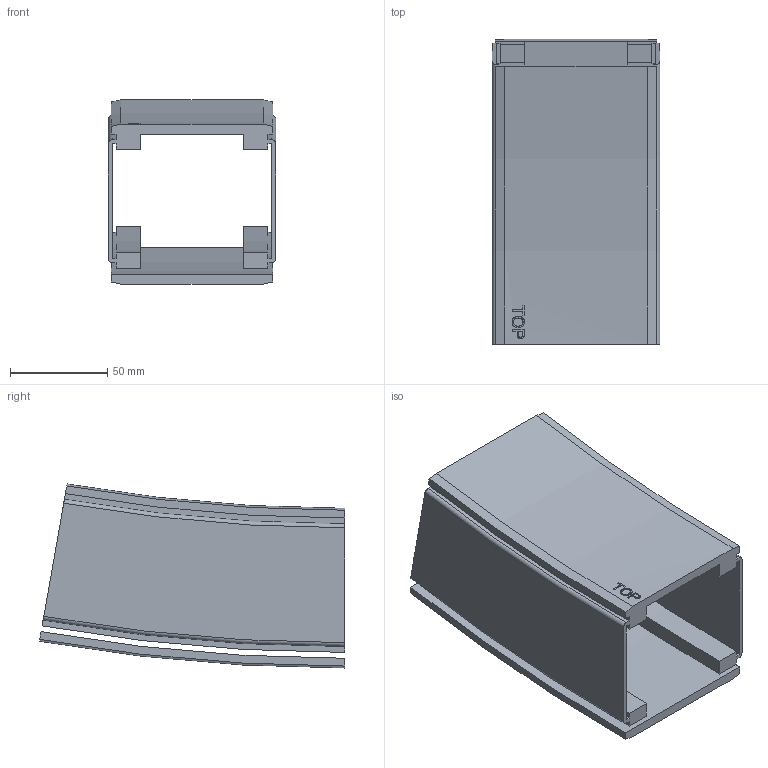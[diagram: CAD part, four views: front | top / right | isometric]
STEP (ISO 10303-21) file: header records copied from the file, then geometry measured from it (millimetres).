
FILE_DESCRIPTION(/* description */ ('VERTIKALKURVA S530 R860'),/* implementation_level */ '2;1');
FILE_NAME(/* name */ '530-5695+830-2000-UPP-01.stp',/* time_stamp */ '2022-09-21T07:15:48+02:00',/* author */ ('Mathias.Dore'),/* organization */ ('CARRYLINE'),/* preprocessor_version */ 'ST-DEVELOPER v19.2',/* originating_system */ 'Autodesk Inventor 2023',/* authorisation */ '');
FILE_SCHEMA (('AUTOMOTIVE_DESIGN { 1 0 10303 214 3 1 1 }'));
Length unit declared in the file: millimetre
Products named in the file (1): 530-5695+830-2000-UPP-01
Bounding box: 86 x 156.72 x 94.47 mm (x, y, z)
Volume: 223042.4 mm3; surface area: 111285 mm2
Topology: 2 solids, 2 shells, 87 faces, 234 edges, 156 vertices
Faces by surface type: plane 40, cylinder 25, bspline 14, cone 4, torus 4
Entity records: 7345 total; most frequent: CARTESIAN_POINT 5146, ORIENTED_EDGE 468, DIRECTION 408, EDGE_CURVE 234, VERTEX_POINT 156, AXIS2_PLACEMENT_3D 141, LINE 126, VECTOR 126
